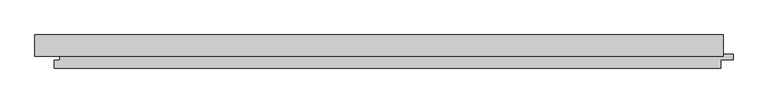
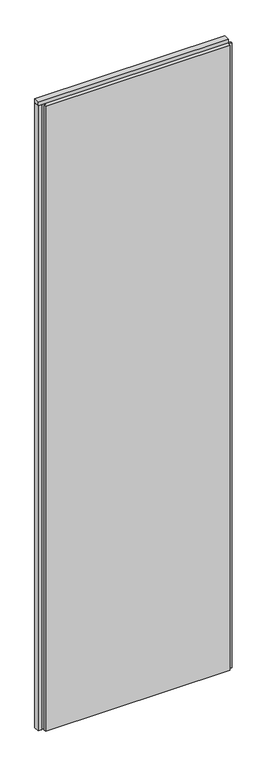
"""IFC4 building model written with IfcOpenShell, lengths in millimetres: plate geometry, Trimo_Qbiss Screen_Normal Panel-VERTICAL : HR - FB-F."""

import ifcopenshell
import ifcopenshell.guid

model = None  # the IFC model being written
_history = None  # IfcOwnerHistory: only IFC2X3 demands one
_inside = {}  # id of a spatial element -> (the spatial element, [elements in it])
_under = {}  # id of a project, library or spatial element -> (it, [spatial elements below it])
_declared = {}  # id of a project -> (the project, [libraries it declares])
_typed = {}  # id of a type object -> (the type object, [elements of that type])
_made_of = {}  # id of a material, layer set ... -> (it, [elements and type objects made of it])


def new_model(schema):
    """Start an empty IFC model of exactly this schema.

    Asked for "IFC4X3", IfcOpenShell would pick the latest addendum, in which some entities
    have other attributes; the version numbers below select the first issue.
    IFC2X3 requires an IfcOwnerHistory on every rooted entity: one is made here for all.
    """
    global model, _history
    if schema == "IFC4X3":
        model = ifcopenshell.file(schema_version=(4, 3, 0, 0))
    else:
        model = ifcopenshell.file(schema=schema)
    _inside.clear()
    _under.clear()
    _declared.clear()
    _typed.clear()
    _made_of.clear()
    _history = None
    if model.schema == "IFC2X3":
        org = make("IfcOrganization", Name="unknown")
        user = make(
            "IfcPersonAndOrganization",
            ThePerson=make("IfcPerson", FamilyName="unknown"),
            TheOrganization=org,
        )
        app = make(
            "IfcApplication",
            ApplicationDeveloper=org,
            Version="unknown",
            ApplicationFullName="unknown",
            ApplicationIdentifier="unknown",
        )
        _history = make(
            "IfcOwnerHistory",
            OwningUser=user,
            OwningApplication=app,
            ChangeAction="ADDED",
            CreationDate=0,
        )
    return model


def make(cls, **values):
    """One entity of the class cls with the attributes given. An attribute that is None is left unset."""
    return model.create_entity(
        cls, **{name: value for name, value in values.items() if value is not None}
    )


def rooted(cls, **values):
    """An entity with a GlobalId (a new one), such as an element, a storey or a relation."""
    return make(cls, GlobalId=ifcopenshell.guid.new(), OwnerHistory=_history, **values)


def si_unit(unit_type, name, prefix=None):
    """IfcSIUnit, for example si_unit("LENGTHUNIT", "METRE", prefix="MILLI")."""
    return make("IfcSIUnit", UnitType=unit_type, Prefix=prefix, Name=name)


def assignment(units):
    """IfcUnitAssignment: the units of a project."""
    return None if units is None else make("IfcUnitAssignment", Units=units)


def point(xyz):
    """IfcCartesianPoint."""
    return None if xyz is None else make("IfcCartesianPoint", Coordinates=xyz)


def direction(xyz):
    """IfcDirection."""
    return None if xyz is None else make("IfcDirection", DirectionRatios=xyz)


def frame(location, z_axis=None, x_axis=None):
    """IfcAxis2Placement3D, a coordinate frame: its origin and axes. An axis left out is left unset."""
    return make(
        "IfcAxis2Placement3D",
        Location=point(location),
        Axis=direction(z_axis),
        RefDirection=direction(x_axis),
    )


def origin():
    """The frame at (0, 0, 0) with its axes left unset."""
    return frame((0.0, 0.0, 0.0))


def place(relative_to, where):
    """IfcLocalPlacement: puts the frame where relative to a parent placement (None: the world)."""
    return make(
        "IfcLocalPlacement", PlacementRelTo=relative_to, RelativePlacement=where
    )


def context(
    kind, dimensions, precision=None, world=None, true_north=None, identifier=None
):
    """IfcGeometricRepresentationContext, for example the 3D "Model" context."""
    return make(
        "IfcGeometricRepresentationContext",
        ContextIdentifier=identifier,
        ContextType=kind,
        CoordinateSpaceDimension=dimensions,
        Precision=precision,
        WorldCoordinateSystem=world,
        TrueNorth=true_north,
    )


def project(units=None, contexts=None):
    """IfcProject with its units and contexts."""
    return rooted(
        "IfcProject",
        Name="project",
        RepresentationContexts=contexts,
        UnitsInContext=assignment(units),
    )


def spatial(cls, under=None, at=None, **own):
    """A site, building, storey or space (cls), placed at a placement, below another one or the project."""
    s = rooted(cls, ObjectPlacement=at, **own)
    if under is not None:
        _under.setdefault(under.id(), (under, []))[1].append(s)
    return s


def polyline(points):
    """IfcPolyline through the points."""
    return make("IfcPolyline", Points=[point(p) for p in points])


def outline(outer, holes=None, kind="AREA"):
    """IfcArbitraryClosedProfileDef: a profile drawn as a closed curve; with holes, ...WithVoids."""
    if holes is None:
        return make("IfcArbitraryClosedProfileDef", ProfileType=kind, OuterCurve=outer)
    return make(
        "IfcArbitraryProfileDefWithVoids",
        ProfileType=kind,
        OuterCurve=outer,
        InnerCurves=holes,
    )


def extrude(swept, where, along, depth):
    """IfcExtrudedAreaSolid: the profile swept, set in the frame where, extruded along a direction by depth."""
    return make(
        "IfcExtrudedAreaSolid",
        SweptArea=swept,
        Position=where,
        ExtrudedDirection=direction(along),
        Depth=depth,
    )


def shape(context_of_items, identifier, shape_type, items):
    """IfcShapeRepresentation: the items that make up one representation, for example the "Body"."""
    return make(
        "IfcShapeRepresentation",
        ContextOfItems=context_of_items,
        RepresentationIdentifier=identifier,
        RepresentationType=shape_type,
        Items=items,
    )


def source(mapping_origin, context_of_items, identifier, shape_type, items):
    """IfcRepresentationMap: a shape defined once, which mapped items show again and again."""
    return make(
        "IfcRepresentationMap",
        MappingOrigin=mapping_origin,
        MappedRepresentation=shape(context_of_items, identifier, shape_type, items),
    )


def transform(
    local_origin,
    x_axis=None,
    y_axis=None,
    z_axis=None,
    scale=None,
    scale2=None,
    scale3=None,
    uniform=True,
):
    """IfcCartesianTransformationOperator3D, or its non-uniform kind. x_axis, y_axis, z_axis: its Axis1, 2, 3."""
    if uniform:
        return make(
            "IfcCartesianTransformationOperator3D",
            Axis1=direction(x_axis),
            Axis2=direction(y_axis),
            LocalOrigin=point(local_origin),
            Scale=scale,
            Axis3=direction(z_axis),
        )
    return make(
        "IfcCartesianTransformationOperator3DnonUniform",
        Axis1=direction(x_axis),
        Axis2=direction(y_axis),
        LocalOrigin=point(local_origin),
        Scale=scale,
        Axis3=direction(z_axis),
        Scale2=scale2,
        Scale3=scale3,
    )


def mapped(mapping_source, mapping_target):
    """IfcMappedItem: shows the shape of a source again, moved by a transform."""
    return make(
        "IfcMappedItem", MappingSource=mapping_source, MappingTarget=mapping_target
    )


def made_of(thing, what):
    """Note that an element or type object is made of a material, layer set ...; save() writes the relation."""
    if what is not None:
        _made_of.setdefault(what.id(), (what, []))[1].append(thing)
    return thing


def element(
    cls,
    number,
    at=None,
    inside=None,
    cuts=None,
    type_object=None,
    material=None,
    context=None,
    identifier="Body",
    shape_type=None,
    held_by="IfcProductDefinitionShape",
    body=None,
    shapes=None,
    **own,
):
    """One element of the class cls, such as IfcWall. Its Tag is "e" and its number.

    at: its placement. inside: the storey or other place that contains it. cuts: it is an
    opening in that element (IfcRelVoidsElement). A single representation is given by context,
    identifier, shape_type and body (its items); several are given by shapes. held_by: the class
    of the entity that holds the representations. save() writes the other relations.
    """
    e = rooted(cls, Tag="e%d" % number, ObjectPlacement=at, **own)
    if body is not None:
        shapes = [shape(context, identifier, shape_type, body)]
    if shapes is not None:
        e.Representation = make(held_by, Representations=shapes)
    if inside is not None:
        _inside.setdefault(inside.id(), (inside, []))[1].append(e)
    if cuts is not None:
        rooted(
            "IfcRelVoidsElement", RelatingBuildingElement=cuts, RelatedOpeningElement=e
        )
    if type_object is not None:
        _typed.setdefault(type_object.id(), (type_object, []))[1].append(e)
    return made_of(e, material)


def aggregate(whole, parts):
    """IfcRelAggregates: a whole, such as a stair, and the parts it consists of."""
    return rooted("IfcRelAggregates", RelatingObject=whole, RelatedObjects=parts)


def save(model, path):
    """Write the relations noted so far, then the file.

    IfcRelAggregates (storeys below a building ...), IfcRelContainedInSpatialStructure (elements
    in a storey), IfcRelDefinesByType, IfcRelAssociatesMaterial and IfcRelDeclares: one each for
    every whole, place, type object, material and project.
    """
    for whole, parts in _under.values():
        aggregate(whole, parts)
    for where, things in _inside.values():
        rooted(
            "IfcRelContainedInSpatialStructure",
            RelatedElements=things,
            RelatingStructure=where,
        )
    for kind, things in _typed.values():
        rooted("IfcRelDefinesByType", RelatedObjects=things, RelatingType=kind)
    for what, things in _made_of.values():
        rooted("IfcRelAssociatesMaterial", RelatedObjects=things, RelatingMaterial=what)
    for by, libraries in _declared.values():
        rooted("IfcRelDeclares", RelatingContext=by, RelatedDefinitions=libraries)
    model.write(path)


def plate_e4ad071d(model_context):
    return source(origin(), model_context, "Body", "SweptSolid", [
        extrude(outline(polyline([(-531.0, 97.0), (-531.0, 126.0), (-512.0, 126.0), (-512.0, 97.0), (-531.0, 97.0)])), frame((0.0, 0.0, 12.5), z_axis=(0.0, 0.0, 1.0), x_axis=(1.0, 0.0, 0.0)), (0.0, 0.0, 1.0), 3575.0),
        extrude(outline(polyline([(-531.0, 93.9), (-531.0, 126.0), (500.0, 126.0), (500.0, 93.9), (-531.0, 93.9)])), frame((0.0, 0.0, 3590.5), z_axis=(0.0, 0.0, 1.0), x_axis=(1.0, 0.0, 0.0)), (0.0, 0.0, 1.0), 19.0),
        extrude(outline(polyline([(496.0, 97.0), (514.5, 97.0), (514.5, 89.0), (496.0, 89.0), (496.0, 76.0), (-502.0, 76.0), (-502.0, 88.0), (-493.5, 88.0), (-493.5, 98.0), (-509.0, 98.0), (-509.0, 126.0), (496.0, 126.0), (496.0, 97.0)])), frame((0.0, 0.0, 12.5), z_axis=(0.0, 0.0, 1.0), x_axis=(1.0, 0.0, 0.0)), (0.0, 0.0, 1.0), 3575.0),
    ])


if __name__ == "__main__":
    model = new_model("IFC4")
    model_context = context("Model", 3, world=origin())
    ifc_project = project(units=[si_unit("LENGTHUNIT", "METRE", prefix="MILLI")], contexts=[model_context])
    site = spatial("IfcSite", under=ifc_project)
    building = spatial("IfcBuilding", under=site)
    placement = place(None, origin())
    plate_shape = plate_e4ad071d(model_context)
    element("IfcPlate", 1, ObjectType="Trimo_Qbiss Screen_Normal Panel-VERTICAL : HR - FB-F", at=placement, inside=building, context=model_context, shape_type="MappedRepresentation", body=[
        mapped(plate_shape, transform((0.0, 0.0, 0.0), x_axis=(1.0, 0.0, 0.0), y_axis=(0.0, 1.0, 0.0), z_axis=(0.0, 0.0, 1.0))),
    ])
    save(model, "model.ifc")
